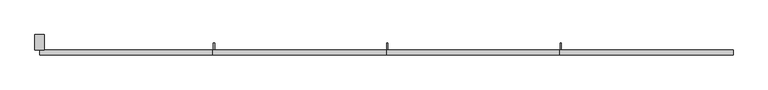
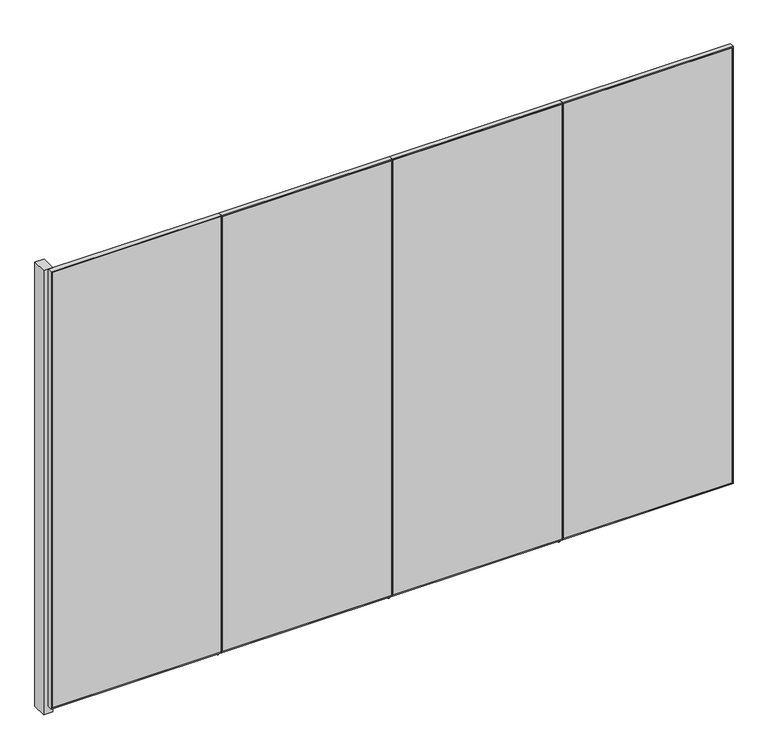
"""IFC4 building model written with IfcOpenShell, lengths in millimetres: furniture geometry, H104 Reja 4 módulos : H104 Reja 4 módulos 450x310."""

from ifc_helpers import new_model, si_unit, frame, origin, origin_with_axes, place, context, project, spatial, polyline, outline, extrude, source, transform, mapped, element, save


def furniture_4cc7b299(model_context):
    return source(origin(), model_context, "Body", "SweptSolid", [
        extrude(outline(polyline([(-2175.2996736, -468.0), (-2175.2996736, -568.0), (-2235.2996736, -568.0), (-2235.2996736, -468.0), (-2175.2996736, -468.0)])), origin_with_axes(), (0.0, 0.0, 1.0), 3100.0),
        extrude(outline(polyline([(3100.0, 44.7003264), (3100.0, -1080.2996736), (50.0, -1080.2996736), (50.0, 44.7003264), (3100.0, 44.7003264)]), holes=[polyline([(3093.0, 41.2003264), (57.0, 41.2003264), (57.0, -1076.7996736), (3093.0, -1076.7996736), (3093.0, 41.2003264)])]), frame((0.0, -600.0, 0.0), z_axis=(0.0, 1.0, 0.0), x_axis=(0.0, 0.0, 1.0)), (0.0, 0.0, 1.0), 32.0),
        extrude(outline(polyline([(2287.7003264, -600.0), (1173.2003264, -600.0), (1173.2003264, -597.0), (2287.7003264, -597.0), (2287.7003264, -600.0)])), frame((0.0, 0.0, 57.0), z_axis=(0.0, 0.0, 1.0), x_axis=(1.0, 0.0, 0.0)), (0.0, 0.0, 1.0), 3036.0),
        extrude(outline(polyline([(3100.0, 2294.7003264), (3100.0, 1169.7003264), (50.0, 1169.7003264), (50.0, 2294.7003264), (3100.0, 2294.7003264)]), holes=[polyline([(3093.0, 2287.7003264), (57.0, 2287.7003264), (57.0, 1173.2003264), (3093.0, 1173.2003264), (3093.0, 2287.7003264)])]), frame((0.0, -600.0, 0.0), z_axis=(0.0, 1.0, 0.0), x_axis=(0.0, 0.0, 1.0)), (0.0, 0.0, 1.0), 32.0),
        extrude(outline(polyline([(1166.2003264, -600.0), (48.2003264, -600.0), (48.2003264, -597.0), (1166.2003264, -597.0), (1166.2003264, -600.0)])), frame((0.0, 0.0, 57.0), z_axis=(0.0, 0.0, 1.0), x_axis=(1.0, 0.0, 0.0)), (0.0, 0.0, 1.0), 3036.0),
        extrude(outline(polyline([(3100.0, 1169.7003264), (3100.0, 44.7003264), (50.0, 44.7003264), (50.0, 1169.7003264), (3100.0, 1169.7003264)]), holes=[polyline([(3093.0, 1166.2003264), (57.0, 1166.2003264), (57.0, 48.2003264), (3093.0, 48.2003264), (3093.0, 1166.2003264)])]), frame((0.0, -600.0, 0.0), z_axis=(0.0, 1.0, 0.0), x_axis=(0.0, 0.0, 1.0)), (0.0, 0.0, 1.0), 32.0),
        extrude(outline(polyline([(41.2003264, -600.0), (-1076.7996736, -600.0), (-1076.7996736, -597.0), (41.2003264, -597.0), (41.2003264, -600.0)])), frame((0.0, 0.0, 57.0), z_axis=(0.0, 0.0, 1.0), x_axis=(1.0, 0.0, 0.0)), (0.0, 0.0, 1.0), 3036.0),
        extrude(outline(polyline([(-1083.7996736, -600.0), (-2198.2996736, -600.0), (-2198.2996736, -597.0), (-1083.7996736, -597.0), (-1083.7996736, -600.0)])), frame((0.0, 0.0, 57.0), z_axis=(0.0, 0.0, 1.0), x_axis=(1.0, 0.0, 0.0)), (0.0, 0.0, 1.0), 3036.0),
        extrude(outline(polyline([(3100.0, -1080.2996736), (3100.0, -2205.2996736), (50.0, -2205.2996736), (50.0, -1080.2996736), (3100.0, -1080.2996736)]), holes=[polyline([(3093.0, -1083.7996736), (57.0, -1083.7996736), (57.0, -2198.2996736), (3093.0, -2198.2996736), (3093.0, -1083.7996736)])]), frame((0.0, -600.0, 0.0), z_axis=(0.0, 1.0, 0.0), x_axis=(0.0, 0.0, 1.0)), (0.0, 0.0, 1.0), 32.0),
        extrude(outline(polyline([(-522.0, 82.0), (-522.0, 0.0), (-547.0, 0.0), (-547.0, 57.0), (-597.0, 57.0), (-597.0, 82.0), (-522.0, 82.0)])), frame((1173.2003264, 0.0, 0.0), z_axis=(1.0, 0.0, 0.0), x_axis=(0.0, 1.0, 0.0)), (0.0, 0.0, 1.0), 7.0),
        extrude(outline(polyline([(-522.0, 82.0), (-522.0, 0.0), (-547.0, 0.0), (-547.0, 57.0), (-597.0, 57.0), (-597.0, 82.0), (-522.0, 82.0)])), frame((-1076.7996736, 0.0, 0.0), z_axis=(1.0, 0.0, 0.0), x_axis=(0.0, 1.0, 0.0)), (0.0, 0.0, 1.0), 7.0),
        extrude(outline(polyline([(-522.0, 82.0), (-522.0, 0.0), (-547.0, 0.0), (-547.0, 57.0), (-597.0, 57.0), (-597.0, 82.0), (-522.0, 82.0)])), frame((48.2003264, 0.0, 0.0), z_axis=(1.0, 0.0, 0.0), x_axis=(0.0, 1.0, 0.0)), (0.0, 0.0, 1.0), 7.0),
    ])


if __name__ == "__main__":
    model = new_model("IFC4")
    model_context = context("Model", 3, world=origin())
    ifc_project = project(units=[si_unit("LENGTHUNIT", "METRE", prefix="MILLI")], contexts=[model_context])
    site = spatial("IfcSite", under=ifc_project)
    building = spatial("IfcBuilding", under=site)
    placement = place(None, origin())
    furniture_shape = furniture_4cc7b299(model_context)
    element("IfcFurniture", 1, ObjectType="H104 Reja 4 módulos : H104 Reja 4 módulos 450x310", at=placement, inside=building, context=model_context, shape_type="MappedRepresentation", body=[
        mapped(furniture_shape, transform((0.0, 0.0, 0.0), x_axis=(1.0, 0.0, 0.0), y_axis=(0.0, 1.0, 0.0), z_axis=(0.0, 0.0, 1.0))),
    ])
    save(model, "model.ifc")
